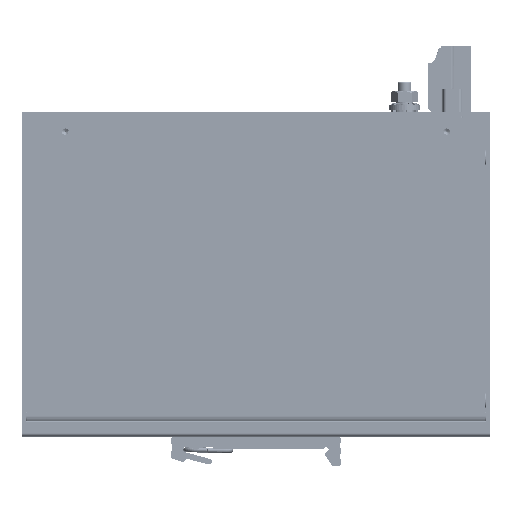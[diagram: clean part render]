
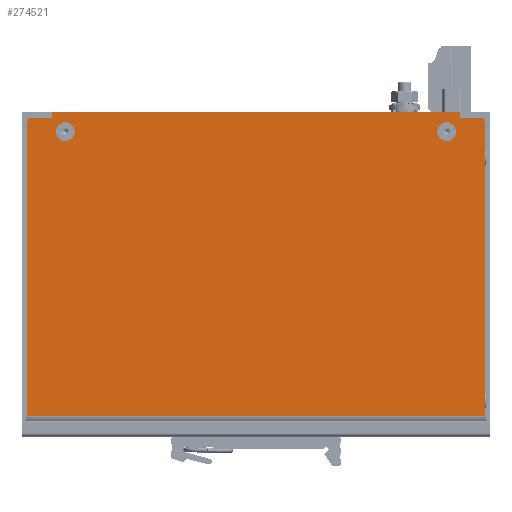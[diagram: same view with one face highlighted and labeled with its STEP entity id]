
A CAD part, front view. The second image highlights one B-rep face of the part: STEP entity #274521.
In plain terms, the highlighted planar face has unit normal (0, -1, 0).
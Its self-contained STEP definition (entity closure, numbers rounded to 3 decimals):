
#1610=FACE_BOUND('',#30433,.T.);
#1611=FACE_BOUND('',#30434,.T.);
#3877=PLANE('',#290995);
#15658=FACE_OUTER_BOUND('',#30432,.T.);
#30432=EDGE_LOOP('',(#192267,#192268,#192269,#192270,#192271,#192272,#192273,
#192274,#192275,#192276));
#30433=EDGE_LOOP('',(#192277));
#30434=EDGE_LOOP('',(#192278));
#43953=CIRCLE('',#290978,1.);
#43957=CIRCLE('',#290984,1.);
#43958=CIRCLE('',#290986,2.75);
#43959=CIRCLE('',#290988,2.75);
#54774=LINE('',#441037,#85202);
#54777=LINE('',#441042,#85205);
#54779=LINE('',#441046,#85207);
#54780=LINE('',#441048,#85208);
#54781=LINE('',#441050,#85209);
#54782=LINE('',#441053,#85210);
#54784=LINE('',#441057,#85212);
#54785=LINE('',#441058,#85213);
#85202=VECTOR('',#323163,10.);
#85205=VECTOR('',#323168,10.);
#85207=VECTOR('',#323172,10.);
#85208=VECTOR('',#323175,10.);
#85209=VECTOR('',#323178,10.);
#85210=VECTOR('',#323181,10.);
#85212=VECTOR('',#323185,10.);
#85213=VECTOR('',#323186,10.);
#116622=VERTEX_POINT('',#441002);
#116623=VERTEX_POINT('',#441004);
#116629=VERTEX_POINT('',#441020);
#116630=VERTEX_POINT('',#441022);
#116631=VERTEX_POINT('',#441026);
#116632=VERTEX_POINT('',#441030);
#116633=VERTEX_POINT('',#441034);
#116634=VERTEX_POINT('',#441036);
#116635=VERTEX_POINT('',#441040);
#116636=VERTEX_POINT('',#441044);
#116637=VERTEX_POINT('',#441052);
#116638=VERTEX_POINT('',#441056);
#144634=EDGE_CURVE('',#116622,#116623,#43953,.T.);
#144643=EDGE_CURVE('',#116629,#116630,#43957,.T.);
#144646=EDGE_CURVE('',#116631,#116631,#43958,.T.);
#144648=EDGE_CURVE('',#116632,#116632,#43959,.T.);
#144650=EDGE_CURVE('',#116634,#116633,#54774,.T.);
#144653=EDGE_CURVE('',#116633,#116635,#54777,.T.);
#144655=EDGE_CURVE('',#116635,#116636,#54779,.T.);
#144656=EDGE_CURVE('',#116623,#116636,#54780,.T.);
#144657=EDGE_CURVE('',#116634,#116629,#54781,.T.);
#144658=EDGE_CURVE('',#116630,#116637,#54782,.T.);
#144660=EDGE_CURVE('',#116638,#116622,#54784,.T.);
#144661=EDGE_CURVE('',#116638,#116637,#54785,.T.);
#192267=ORIENTED_EDGE('',*,*,#144643,.F.);
#192268=ORIENTED_EDGE('',*,*,#144657,.F.);
#192269=ORIENTED_EDGE('',*,*,#144650,.T.);
#192270=ORIENTED_EDGE('',*,*,#144653,.T.);
#192271=ORIENTED_EDGE('',*,*,#144655,.T.);
#192272=ORIENTED_EDGE('',*,*,#144656,.F.);
#192273=ORIENTED_EDGE('',*,*,#144634,.F.);
#192274=ORIENTED_EDGE('',*,*,#144660,.F.);
#192275=ORIENTED_EDGE('',*,*,#144661,.T.);
#192276=ORIENTED_EDGE('',*,*,#144658,.F.);
#192277=ORIENTED_EDGE('',*,*,#144646,.T.);
#192278=ORIENTED_EDGE('',*,*,#144648,.T.);
#274521=ADVANCED_FACE('',(#15658,#1610,#1611),#3877,.T.);
#290978=AXIS2_PLACEMENT_3D('',#441005,#323130,#323131);
#290984=AXIS2_PLACEMENT_3D('',#441023,#323147,#323148);
#290986=AXIS2_PLACEMENT_3D('',#441028,#323153,#323154);
#290988=AXIS2_PLACEMENT_3D('',#441032,#323158,#323159);
#290995=AXIS2_PLACEMENT_3D('',#441055,#323183,#323184);
#323130=DIRECTION('center_axis',(0.,1.,0.));
#323131=DIRECTION('ref_axis',(-0.707,0.,0.707));
#323147=DIRECTION('center_axis',(0.,1.,0.));
#323148=DIRECTION('ref_axis',(0.707,0.,0.707));
#323153=DIRECTION('center_axis',(0.,1.,0.));
#323154=DIRECTION('ref_axis',(1.,0.,0.));
#323158=DIRECTION('center_axis',(0.,1.,0.));
#323159=DIRECTION('ref_axis',(1.,0.,0.));
#323163=DIRECTION('',(0.,0.,1.));
#323168=DIRECTION('',(-1.,0.,0.));
#323172=DIRECTION('',(0.,0.,-1.));
#323175=DIRECTION('',(1.,0.,0.));
#323178=DIRECTION('',(1.,0.,0.));
#323181=DIRECTION('',(0.,0.,-1.));
#323183=DIRECTION('center_axis',(0.,-1.,0.));
#323184=DIRECTION('ref_axis',(1.,0.,0.));
#323185=DIRECTION('',(0.,0.,1.));
#323186=DIRECTION('',(1.,0.,0.));
#441002=CARTESIAN_POINT('',(-66.9,-43.55,92.4));
#441004=CARTESIAN_POINT('',(-65.9,-43.55,93.4));
#441005=CARTESIAN_POINT('Origin',(-65.9,-43.55,92.4));
#441020=CARTESIAN_POINT('',(65.9,-43.55,93.4));
#441022=CARTESIAN_POINT('',(66.9,-43.55,92.4));
#441023=CARTESIAN_POINT('Origin',(65.9,-43.55,92.4));
#441026=CARTESIAN_POINT('',(53.05,-43.55,89.3));
#441028=CARTESIAN_POINT('Origin',(55.8,-43.55,89.3));
#441030=CARTESIAN_POINT('',(-58.55,-43.55,89.3));
#441032=CARTESIAN_POINT('Origin',(-55.8,-43.55,89.3));
#441034=CARTESIAN_POINT('',(59.6,-43.55,95.));
#441036=CARTESIAN_POINT('',(59.6,-43.55,93.4));
#441037=CARTESIAN_POINT('',(59.6,-43.55,93.4));
#441040=CARTESIAN_POINT('',(-59.6,-43.55,95.));
#441042=CARTESIAN_POINT('',(59.6,-43.55,95.));
#441044=CARTESIAN_POINT('',(-59.6,-43.55,93.4));
#441046=CARTESIAN_POINT('',(-59.6,-43.55,95.));
#441048=CARTESIAN_POINT('',(66.9,-43.55,93.4));
#441050=CARTESIAN_POINT('',(66.9,-43.55,93.4));
#441052=CARTESIAN_POINT('',(66.9,-43.55,6.043));
#441053=CARTESIAN_POINT('',(66.9,-43.55,5.4));
#441055=CARTESIAN_POINT('Origin',(0.,-43.55,
49.4));
#441056=CARTESIAN_POINT('',(-66.9,-43.55,6.043));
#441057=CARTESIAN_POINT('',(-66.9,-43.55,93.4));
#441058=CARTESIAN_POINT('',(-33.45,-43.55,6.043));
